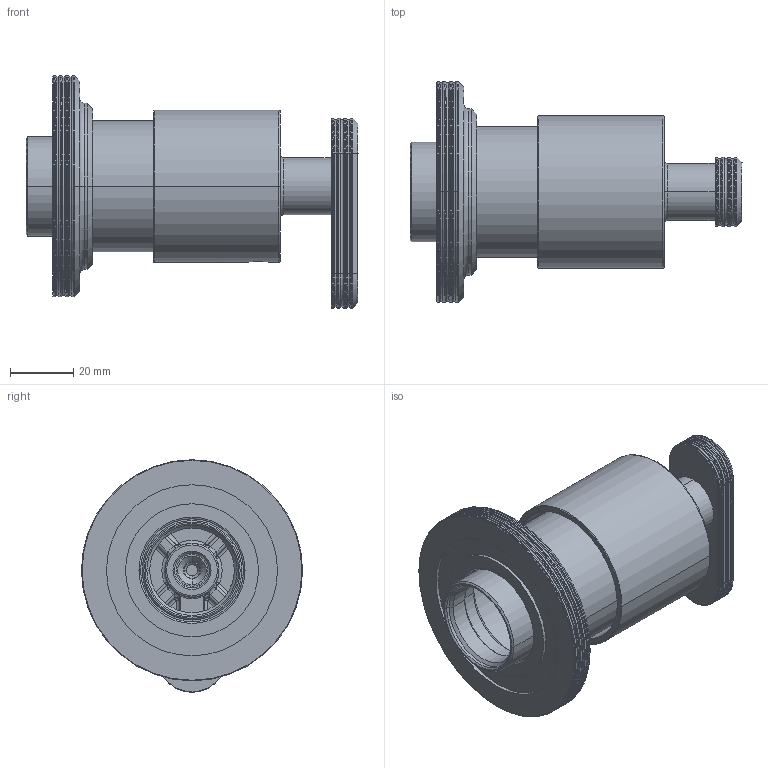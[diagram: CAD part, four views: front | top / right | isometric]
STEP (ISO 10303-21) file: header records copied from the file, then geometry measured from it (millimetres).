
FILE_DESCRIPTION((''),'2;1');
FILE_NAME('F1323_1_ASM','2025-05-14T15:40:08',('ivanv'),(''),'CREO PARAMETRIC BY PTC INC, 2024103','CREO PARAMETRIC BY PTC INC, 2024103','');
FILE_SCHEMA(('CONFIG_CONTROL_DESIGN'));
Length unit declared in the file: millimetre
Products named in the file (8): 4553; 1401; R1401_ASM; 1155Z; 1148Z; PA1148Z_ASM; R1148-02_ASM; F1323_1_ASM
Assembly tree (7 placements, depth 4):
  F1323_1_ASM
    4553
    R1401_ASM
      1401
    R1148-02_ASM
      PA1148Z_ASM
        1155Z
        1148Z
Bounding box: 104.8 x 69.8 x 73.4 mm (x, y, z)
Volume: 64142.6 mm3; surface area: 43628.1 mm2
Topology: 4 solids, 4 shells, 573 faces, 1326 edges, 790 vertices
Faces by surface type: plane 213, cylinder 118, torus 80, cone 66, bspline 38, extrusion 38, sphere 20
Entity records: 18518 total; most frequent: CARTESIAN_POINT 5466, DIRECTION 2714, ORIENTED_EDGE 2652, EDGE_CURVE 1326, AXIS2_PLACEMENT_3D 992, VERTEX_POINT 790, VECTOR 730, LINE 692
